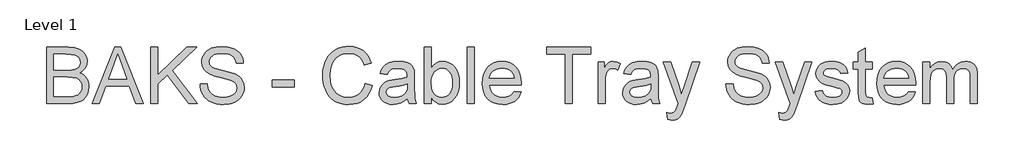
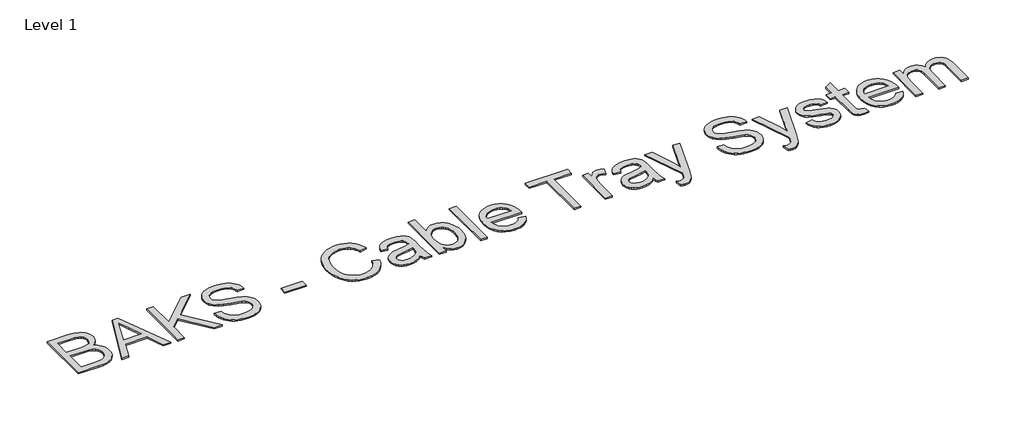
# One storey, part 106 of 106: 1 proxy.
"""IFC4 building model written with IfcOpenShell, lengths in millimetres."""

from ifc_helpers import new_model, si_unit, origin, origin_with_axes, place, context, project, spatial, polyline, outline, extrude, element, save

model = new_model("IFC4")

# Units and contexts
model_context = context("Model", 3, world=origin())
ifc_project = project(units=[si_unit("LENGTHUNIT", "METRE", prefix="MILLI")], contexts=[model_context])

# Site, building, storey
site = spatial("IfcSite", under=ifc_project)
building = spatial("IfcBuilding", under=site)
storey = spatial("IfcBuildingStorey", under=building, Name="Level 1", Elevation=0.0)

# Proxy
placement = place(None, origin())
element("IfcBuildingElementProxy", 1, Name="600mm Arial", ObjectType="600mm Arial", at=placement, inside=storey, context=model_context, shape_type="SweptSolid", body=[
    extrude(outline(polyline([(158347.8263042, 74450.7318965), (158347.8263042, 75053.4697574), (158577.8261276, 75053.4697574), (158641.0834367, 75049.0367793), (158690.4715946, 75035.7378452), (158710.5487544, 75025.6808712), (158728.3266519, 75013.2418612), (158743.8052868, 74998.4208153), (158756.9846593, 74981.2177335), (158775.0292711, 74943.5466172), (158781.0441418, 74904.1096673), (158775.9857643, 74867.8181085), (158760.810632, 74833.6970535), (158735.4083803, 74803.8434295), (158699.6686444, 74780.3541642), (158722.4083503, 74770.6604736), (158742.36135, 74758.0605152), (158759.5276436, 74742.5542891), (158773.9072311, 74724.1417953), (158785.2701862, 74703.3840537), (158793.3865827, 74680.8420845), (158798.2564206, 74656.5158875), (158799.8796999, 74630.4054629), (158795.4467219, 74588.374945), (158782.1477877, 74549.3978476), (158762.3005541, 74516.2516798), (158738.2226775, 74491.7139507), (158708.7369356, 74473.9452504), (158672.666106, 74461.1061687), (158628.8329663, 74453.3254645), (158576.0602941, 74450.7318965), (158347.8263042, 74450.7318965)]), holes=[polyline([(158423.1685369, 74808.6075014), (158560.7564031, 74808.6075014), (158608.875368, 74810.2261822), (158641.1018308, 74815.0822245), (158669.2264093, 74826.247443), (158689.441525, 74842.9676797), (158701.6368131, 74864.9854171), (158705.7019092, 74892.0431379), (158701.9127246, 74918.3099123), (158690.5451709, 74941.1921724), (158672.114283, 74959.0528433), (158647.1350955, 74970.2548501), (158608.8017916, 74976.1593561), (158550.3085544, 74978.1275248), (158423.1685369, 74978.1275248), (158423.1685369, 74808.6075014)]), polyline([(158423.1685369, 74526.0741291), (158577.6789748, 74526.0741291), (158633.5970381, 74529.017185), (158659.5511129, 74535.5470905), (158680.9066627, 74545.424722), (158698.2706928, 74559.5697847), (158712.2502087, 74578.9019836), (158721.4656526, 74602.5567959), (158724.5374673, 74629.6696989), (158720.9322238, 74661.1603977), (158710.1164931, 74688.2365126), (158691.2257526, 74709.4081214), (158663.3954797, 74723.1853021), (158623.9769239, 74730.7452771), (158570.3213349, 74733.2652688), (158423.1685369, 74733.2652688), (158423.1685369, 74526.0741291)])]), origin_with_axes(), (0.0, 0.0, 1.0), 15.0),
    extrude(outline(polyline([(158833.4305379, 74450.7318965), (159074.0253627, 75053.4697574), (159138.1839827, 75053.4697574), (159378.6316547, 74450.7318965), (159299.021991, 74450.7318965), (159230.1544815, 74639.087478), (158981.7605583, 74639.087478), (158912.8930488, 74450.7318965), (158833.4305379, 74450.7318965)]), holes=[polyline([(159009.4252844, 74714.4297106), (159202.6369082, 74714.4297106), (159148.1903729, 74862.6125783), (159105.9575199, 74978.1275248), (159068.4335564, 74875.5620245), (159009.4252844, 74714.4297106)])]), origin_with_axes(), (0.0, 0.0, 1.0), 15.0),
    extrude(outline(polyline([(159459.1242353, 74450.7318965), (159459.1242353, 75053.4697574), (159534.4664679, 75053.4697574), (159534.4664679, 74758.4283972), (159843.4873438, 75053.4697574), (159948.8487473, 75053.4697574), (159689.2712115, 74805.6644454), (159958.2665263, 74450.7318965), (159866.1488747, 74450.7318965), (159635.8547458, 74754.7495773), (159534.4664679, 74657.9230362), (159534.4664679, 74450.7318965), (159459.1242353, 74450.7318965)])), origin_with_axes(), (0.0, 0.0, 1.0), 15.0),
    extrude(outline(polyline([(159986.5198636, 74657.9230362), (160061.8620962, 74657.9230362), (160070.5073231, 74616.1132474), (160086.1423079, 74582.5072271), (160110.5328841, 74555.8357825), (160145.4448855, 74534.8297206), (160188.1191969, 74521.1996926), (160235.7967035, 74516.65635), (160277.7720391, 74520.0960467), (160314.5234505, 74530.4151366), (160344.303498, 74546.7490972), (160365.3647422, 74568.2334057), (160377.8911241, 74592.8998935), (160382.0665848, 74618.7803919), (160378.9395878, 74643.9987026), (160369.5585969, 74665.7957109), (160350.5023096, 74684.3921457), (160318.3494232, 74700.0087364), (160208.6470122, 74728.7771084), (160136.6341117, 74747.8150017), (160090.5568918, 74765.9331899), (160053.0513224, 74791.2802594), (160026.4718482, 74821.998406), (160010.6345283, 74857.4254421), (160005.3554217, 74896.8991802), (160006.9878981, 74919.3353834), (160011.8853271, 74941.0266255), (160020.0477089, 74961.9729066), (160031.4750434, 74982.1742267), (160046.0385719, 75000.8074498), (160063.6095356, 75017.0494398), (160084.1879348, 75030.900197), (160107.7737692, 75042.3597211), (160160.7855647, 75057.7555826), (160219.4627429, 75062.8875364), (160283.0327517, 75057.5164593), (160338.6565093, 75041.4032279), (160362.9919033, 75029.4010778), (160384.3474531, 75014.8789361), (160402.7231588, 74997.8368026), (160418.1190203, 74978.2746776), (160430.415476, 74956.7627779), (160439.4929642, 74933.8713207), (160445.351485, 74909.6003061), (160447.9910383, 74883.949734), (160372.6488057, 74883.949734), (160367.6088224, 74907.9908224), (160358.8164427, 74928.9049138), (160346.2716666, 74946.6920083), (160329.9744943, 74961.3521058), (160309.6214229, 74972.8116299), (160284.9089498, 74980.9970043), (160255.8370752, 74985.908229), (160222.4057989, 74987.5453038), (160187.9076648, 74985.9266231), (160158.4311199, 74981.0705807), (160133.9761643, 74972.9771768), (160114.5427979, 74961.6464114), (160099.7355476, 74948.0255805), (160089.1589402, 74933.0619803), (160082.8129758, 74916.7556109), (160080.6976543, 74899.1064722), (160082.1967735, 74883.9221428), (160086.6941308, 74870.1541592), (160094.1897265, 74857.8025212), (160104.6835604, 74846.8672289), (160121.201462, 74836.5113507), (160147.2107191, 74826.045108), (160227.7032996, 74804.7815286), (160310.7710541, 74784.5848071), (160361.0237346, 74766.9632595), (160403.9739576, 74739.6296273), (160420.5792311, 74723.5623811), (160433.9379461, 74705.8948483), (160444.2064523, 74686.7189993), (160451.5410996, 74666.1268046), (160457.4088174, 74620.6933782), (160455.7211587, 74597.1259379), (160450.6581828, 74574.2482764), (160442.2198895, 74552.0603935), (160430.4062789, 74530.5622894), (160415.4242847, 74510.5862971), (160397.4808404, 74492.9647495), (160376.575946, 74477.6976467), (160352.7096016, 74464.7849887), (160326.5761843, 74454.5164825), (160298.8700716, 74447.1818352), (160238.7397595, 74441.3141174), (160200.1995219, 74442.89601), (160164.9242371, 74447.6416877), (160132.913905, 74455.5511506), (160104.1685256, 74466.6243987), (160078.513355, 74480.879826), (160055.7736492, 74498.3358266), (160035.9494081, 74518.9924007), (160019.0406319, 74542.8495481), (160005.4198011, 74569.1347166), (159995.459396, 74597.0753542), (159989.1594169, 74626.6714607), (159986.5198636, 74657.9230362)])), origin_with_axes(), (0.0, 0.0, 1.0), 15.0),
    extrude(outline(polyline([(160758.7777478, 74629.6696989), (160758.7777478, 74705.0119315), (160994.2222247, 74705.0119315), (160994.2222247, 74629.6696989), (160758.7777478, 74629.6696989)])), origin_with_axes(), (0.0, 0.0, 1.0), 15.0),
    extrude(outline(polyline([(161747.6445509, 74664.9863705), (161822.9867835, 74645.5622011), (161808.0783656, 74598.7078305), (161788.2219349, 74557.767163), (161763.4174914, 74522.7401985), (161733.6650351, 74493.6269371), (161699.6359505, 74470.7400785), (161662.0016224, 74454.3923223), (161620.7620507, 74444.5836686), (161575.9172355, 74441.3141174), (161529.9733728, 74443.7881238), (161488.5268676, 74451.2101431), (161451.5777197, 74463.5801752), (161419.1259292, 74480.8982201), (161390.7254391, 74502.9067604), (161365.9301927, 74529.3482788), (161344.7401898, 74560.2227753), (161327.1554304, 74595.5302498), (161313.34606, 74633.743992), (161303.482224, 74673.3372918), (161297.5639224, 74714.310149), (161295.5911552, 74756.6625637), (161297.8214398, 74802.1051871), (161304.5122936, 74844.5495723), (161315.6637166, 74883.9957192), (161331.2757087, 74920.4436279), (161350.9987822, 74953.2908916), (161374.4834491, 74981.9351034), (161401.7297093, 75006.3762635), (161432.737563, 75026.6143717), (161466.4539479, 75042.4838813), (161501.8258017, 75053.8192453), (161538.8531245, 75060.6204637), (161577.5359163, 75062.8875364), (161620.6286935, 75059.9536775), (161660.1438183, 75051.1521008), (161696.0812907, 75036.4828062), (161728.4411107, 75015.9457939), (161756.6898494, 74990.0836896), (161780.2940779, 74959.4391194), (161799.2537963, 74924.0120833), (161813.5690044, 74883.8025812), (161738.2267718, 74865.8499398), (161726.3625774, 74895.478236), (161712.1071501, 74920.7931158), (161695.4604899, 74941.7945792), (161676.4225966, 74958.4826262), (161654.8831058, 74971.1975477), (161630.7316528, 74980.2796344), (161603.9682377, 74985.7288865), (161574.5928603, 74987.5453038), (161540.793702, 74985.5311499), (161509.8824174, 74979.4886881), (161481.8590064, 74969.4179185), (161456.7234691, 74955.3188411), (161434.7931036, 74937.8260522), (161416.3852083, 74917.5741484), (161401.4997831, 74894.5631296), (161390.136828, 74868.7929958), (161375.7342478, 74813.6474847), (161370.9333878, 74756.8097165), (161376.6171646, 74687.206443), (161383.7218857, 74655.9364734), (161393.6684951, 74627.0209486), (161406.6179413, 74601.0346841), (161422.7311727, 74578.5524957), (161442.0081893, 74559.5743833), (161464.448991, 74544.1003468), (161488.9637274, 74532.0935982), (161514.4625482, 74523.5173492), (161540.9454534, 74518.3715998), (161568.4124428, 74516.65635), (161601.167736, 74518.9924007), (161631.3018699, 74526.0005527), (161658.8148446, 74537.680806), (161683.7066601, 74554.0331607), (161705.3887052, 74574.9840403), (161723.2723687, 74600.4598685), (161737.3576506, 74630.4606452), (161747.6445509, 74664.9863705)])), origin_with_axes(), (0.0, 0.0, 1.0), 15.0),
    extrude(outline(polyline([(162199.6979465, 74507.2385709), (162163.7006933, 74476.3732715), (162126.6365823, 74456.17655), (162087.6594849, 74445.0297255), (162045.9232726, 74441.3141174), (162012.3770331, 74443.5490005), (161982.9602691, 74450.2536499), (161957.6729804, 74461.4280655), (161936.5151672, 74477.0722473), (161919.8087261, 74496.192914), (161907.8755539, 74517.7967842), (161900.7156505, 74541.8838578), (161898.3290161, 74568.4541349), (161901.9342596, 74599.6873163), (161912.7499903, 74628.0510181), (161929.4334388, 74652.3312298), (161950.6418358, 74671.3139408), (161975.565841, 74685.6613386), (162003.3961139, 74696.0356109), (162068.5848035, 74707.3663763), (162145.6192933, 74719.285753), (162199.2564881, 74733.2652688), (162199.6979465, 74750.0406877), (162194.5108104, 74783.6651021), (162188.0268902, 74796.1179076), (162178.949402, 74805.6644454), (162163.2592349, 74815.1925891), (162144.1477653, 74821.998406), (162095.6609183, 74827.4430595), (162050.7793149, 74823.8194219), (162019.4357689, 74812.9485089), (161998.061825, 74792.8437579), (161983.0890278, 74761.518606), (161907.7467952, 74770.9363851), (161920.8250001, 74812.1391685), (161940.3411399, 74844.5127841), (161968.1162306, 74869.2712424), (162005.9712879, 74887.6285539), (162052.269237, 74898.9961076), (162105.373003, 74902.7852921), (162156.3062652, 74899.437566), (162196.6813142, 74889.3943875), (162227.1235493, 74874.2928316), (162248.2583699, 74855.7699732), (162262.2746739, 74832.869319), (162271.3613592, 74804.6343758), (162275.0401792, 74738.7099223), (162275.0401792, 74644.9735899), (162278.8661519, 74514.081176), (162284.5315346, 74481.7259546), (162293.8757373, 74450.7318965), (162218.5335047, 74450.7318965), (162206.4669753, 74476.9250945), (162199.6979465, 74507.2385709)]), holes=[polyline([(162199.6979465, 74657.9230362), (162149.077384, 74645.3782601), (162078.1497353, 74634.8200469), (162013.3289278, 74622.6063646), (161996.4615383, 74614.2554433), (161983.9719446, 74602.7407369), (161976.2464227, 74588.9451621), (161973.6712487, 74573.7516357), (161979.2814491, 74551.3476222), (161996.1120504, 74532.9903106), (162023.7951705, 74520.7398402), (162061.9629275, 74516.65635), (162102.429947, 74521.1629044), (162138.1880769, 74534.6825678), (162167.1771782, 74554.6033778), (162187.3371115, 74578.3133724), (162196.276644, 74602.7407369), (162199.2564881, 74636.5858804), (162199.6979465, 74657.9230362)])]), origin_with_axes(), (0.0, 0.0, 1.0), 15.0),
    extrude(outline(polyline([(162453.9779816, 74450.7318965), (162378.635749, 74450.7318965), (162378.635749, 75053.4697574), (162453.9779816, 75053.4697574), (162453.9779816, 74829.9446571), (162478.754834, 74861.8124349), (162506.7322597, 74884.5751334), (162537.9102588, 74898.2327525), (162572.2888313, 74902.7852921), (162611.1003817, 74898.6834079), (162647.7782167, 74886.3777552), (162680.2254086, 74866.6408861), (162706.3450303, 74840.245353), (162726.8176633, 74807.4486731), (162742.3238894, 74768.5083639), (162752.0911564, 74725.0431062), (162755.3469121, 74678.6715807), (162751.9761933, 74625.1631445), (162741.8640369, 74578.0926432), (162725.010443, 74537.4600768), (162701.4154116, 74503.2654454), (162673.0930965, 74476.1617394), (162642.0576516, 74456.8019494), (162608.3090771, 74445.1860754), (162571.8473729, 74441.3141174), (162536.3375633, 74446.3081155), (162504.8560615, 74461.2901097), (162477.4028677, 74486.2601002), (162453.9779816, 74521.2180867), (162453.9779816, 74450.7318965)]), holes=[polyline([(162453.9779816, 74675.1399135), (162459.1283295, 74612.3056688), (162465.5662645, 74588.5037037), (162474.5793733, 74569.7785101), (162492.8355173, 74546.5375651), (162514.0531114, 74529.93689), (162538.2321556, 74519.976485), (162565.3726497, 74516.65635), (162587.905422, 74519.1027653), (162608.8563016, 74526.4420111), (162628.2252886, 74538.6740874), (162646.0123831, 74555.7989943), (162660.8840127, 74577.7707465), (162671.5066054, 74604.5433587), (162677.8801609, 74636.1168309), (162680.0046794, 74672.4911632), (162677.9675329, 74709.5552742), (162671.8560933, 74741.4322491), (162661.6703605, 74768.1220878), (162647.4103347, 74789.6247904), (162630.2624352, 74806.1702832), (162611.4130814, 74817.9884923), (162590.8622735, 74825.0794177), (162568.6100113, 74827.4430595), (162546.0772391, 74824.9966443), (162525.1263595, 74817.6573985), (162505.7573724, 74805.4253221), (162487.970278, 74788.3004152), (162473.0986483, 74766.5493923), (162462.4760557, 74740.4389677), (162456.1025001, 74709.9691414), (162453.9779816, 74675.1399135)])]), origin_with_axes(), (0.0, 0.0, 1.0), 15.0),
    extrude(outline(polyline([(162840.1069237, 74450.7318965), (162840.1069237, 75053.4697574), (162915.4491564, 75053.4697574), (162915.4491564, 74450.7318965), (162840.1069237, 74450.7318965)])), origin_with_axes(), (0.0, 0.0, 1.0), 15.0),
    extrude(outline(polyline([(163338.366298, 74582.5808035), (163412.2370026, 74573.1630245), (163400.9108357, 74543.576115), (163385.6207403, 74517.5024786), (163366.3667164, 74494.9421152), (163343.148764, 74475.8950249), (163316.2060063, 74460.7658779), (163285.7775668, 74449.9593443), (163251.8634454, 74443.4754241), (163214.463642, 74441.3141174), (163167.7150375, 74445.0435211), (163126.0615986, 74456.2317323), (163089.5033253, 74474.8787509), (163058.0402177, 74500.984577), (163032.7391335, 74533.8226436), (163014.6669305, 74572.6663838), (163003.8236086, 74617.5157975), (163000.209168, 74668.3708848), (163003.8603968, 74720.950419), (163014.8140833, 74767.2943533), (163033.0702273, 74807.4026878), (163058.6288289, 74841.2754226), (163090.0091631, 74868.1859905), (163125.7305048, 74887.4078247), (163165.7928541, 74898.9409253), (163210.1962109, 74902.7852921), (163253.1694265, 74898.9501223), (163292.0315607, 74887.4446129), (163326.7826137, 74868.2687639), (163357.4225854, 74841.4225753), (163382.4339625, 74807.623417), (163400.2992319, 74767.5886589), (163411.0183935, 74721.318301), (163414.5914474, 74668.8123432), (163414.149989, 74648.5052571), (163075.5514007, 74648.5052571), (163079.9154008, 74618.440101), (163088.5928174, 74592.1089472), (163101.5836503, 74569.5117957), (163118.8878997, 74550.6486464), (163139.5490722, 74535.7770167), (163162.6106748, 74525.1544241), (163188.0727074, 74518.7808685), (163215.93517, 74516.65635), (163256.0343075, 74520.5926874), (163289.8058746, 74532.4016994), (163317.2498715, 74552.8191501), (163338.366298, 74582.5808035)]), holes=[polyline([(163075.5514007, 74723.8474897), (163339.2492148, 74723.8474897), (163329.0588835, 74763.6523216), (163320.294095, 74779.3057005), (163309.0828912, 74792.126388), (163288.5366818, 74807.5774318), (163265.157781, 74818.6138916), (163238.9461888, 74825.2357676), (163209.9019053, 74827.4430595), (163183.4098031, 74825.6818245), (163159.1157959, 74820.3981193), (163137.0198835, 74811.5919441), (163117.1220661, 74799.2632987), (163100.4248221, 74783.9824003), (163087.9306298, 74766.319466), (163079.6394893, 74746.2744958), (163075.5514007, 74723.8474897)])]), origin_with_axes(), (0.0, 0.0, 1.0), 15.0),
    extrude(outline(polyline([(163885.4804012, 74450.7318965), (163885.4804012, 74978.1275248), (163687.7070406, 74978.1275248), (163687.7070406, 75053.4697574), (164158.5959945, 75053.4697574), (164158.5959945, 74978.1275248), (163960.8226339, 74978.1275248), (163960.8226339, 74450.7318965), (163885.4804012, 74450.7318965)])), origin_with_axes(), (0.0, 0.0, 1.0), 15.0),
    extrude(outline(polyline([(164233.9382271, 74450.7318965), (164233.9382271, 74893.3675131), (164299.8626806, 74893.3675131), (164299.8626806, 74827.8845179), (164324.2164687, 74865.8499398), (164346.6572704, 74888.2171651), (164369.1716485, 74899.1432604), (164393.7461658, 74902.7852921), (164431.2701293, 74896.9727566), (164469.382704, 74879.53515), (164444.2195755, 74811.9920157), (164417.7320719, 74823.5802986), (164391.2445682, 74827.4430595), (164368.7485842, 74823.7274514), (164348.6438332, 74812.5806269), (164332.4018431, 74794.8487148), (164321.4941419, 74771.3778435), (164312.3338802, 74729.2921432), (164309.2804597, 74683.3804702), (164309.2804597, 74450.7318965), (164233.9382271, 74450.7318965)])), origin_with_axes(), (0.0, 0.0, 1.0), 15.0),
    extrude(outline(polyline([(164799.0049717, 74507.2385709), (164763.0077184, 74476.3732715), (164725.9436074, 74456.17655), (164686.96651, 74445.0297255), (164645.2302977, 74441.3141174), (164611.6840582, 74443.5490005), (164582.2672942, 74450.2536499), (164556.9800056, 74461.4280655), (164535.8221923, 74477.0722473), (164519.1157512, 74496.192914), (164507.182579, 74517.7967842), (164500.0226757, 74541.8838578), (164497.6360412, 74568.4541349), (164501.2412848, 74599.6873163), (164512.0570154, 74628.0510181), (164528.7404639, 74652.3312298), (164549.9488609, 74671.3139408), (164574.8728661, 74685.6613386), (164602.703139, 74696.0356109), (164667.8918286, 74707.3663763), (164744.9263184, 74719.285753), (164798.5635133, 74733.2652688), (164799.0049717, 74750.0406877), (164793.8178355, 74783.6651021), (164787.3339154, 74796.1179076), (164778.2564271, 74805.6644454), (164762.56626, 74815.1925891), (164743.4547904, 74821.998406), (164694.9679434, 74827.4430595), (164650.08634, 74823.8194219), (164618.742794, 74812.9485089), (164597.3688501, 74792.8437579), (164582.3960529, 74761.518606), (164507.0538203, 74770.9363851), (164520.1320252, 74812.1391685), (164539.6481651, 74844.5127841), (164567.4232557, 74869.2712424), (164605.278313, 74887.6285539), (164651.5762621, 74898.9961076), (164704.6800281, 74902.7852921), (164755.6132903, 74899.437566), (164795.9883393, 74889.3943875), (164826.4305744, 74874.2928316), (164847.565395, 74855.7699732), (164861.581699, 74832.869319), (164870.6683843, 74804.6343758), (164874.3472043, 74738.7099223), (164874.3472043, 74644.9735899), (164878.173177, 74514.081176), (164883.8385598, 74481.7259546), (164893.1827624, 74450.7318965), (164817.8405298, 74450.7318965), (164805.7740004, 74476.9250945), (164799.0049717, 74507.2385709)]), holes=[polyline([(164799.0049717, 74657.9230362), (164748.3844091, 74645.3782601), (164677.4567605, 74634.8200469), (164612.6359529, 74622.6063646), (164595.7685634, 74614.2554433), (164583.2789697, 74602.7407369), (164575.5534478, 74588.9451621), (164572.9782738, 74573.7516357), (164578.5884743, 74551.3476222), (164595.4190755, 74532.9903106), (164623.1021957, 74520.7398402), (164661.2699527, 74516.65635), (164701.7369721, 74521.1629044), (164737.4951021, 74534.6825678), (164766.4842033, 74554.6033778), (164786.6441366, 74578.3133724), (164795.5836691, 74602.7407369), (164798.5635133, 74636.5858804), (164799.0049717, 74657.9230362)])]), origin_with_axes(), (0.0, 0.0, 1.0), 15.0),
    extrude(outline(polyline([(164977.9427741, 74281.2118731), (164968.524995, 74353.7582025), (165006.7847225, 74347.1363266), (165026.9078677, 74349.2148599), (165042.5428525, 74355.4504597), (165054.7197465, 74365.4016677), (165064.4686194, 74378.6270254), (165085.0700111, 74434.1036303), (165090.956123, 74452.3505773), (164930.8538787, 74893.3675131), (165010.1692369, 74893.3675131), (165095.2235542, 74647.4751875), (165124.8012666, 74549.1771184), (165154.378979, 74636.144422), (165241.6405883, 74893.3675131), (165320.3673352, 74893.3675131), (165166.2983556, 74440.136895), (165126.2727946, 74341.8388259), (165105.7817674, 74310.4584917), (165082.5684135, 74288.7166658), (165055.6394515, 74276.024737), (165024.0015999, 74271.794094), (165002.1126212, 74274.1485388), (164977.9427741, 74281.2118731)])), origin_with_axes(), (0.0, 0.0, 1.0), 15.0),
    extrude(outline(polyline([(165599.5161932, 74657.9230362), (165674.8584258, 74657.9230362), (165683.5036527, 74616.1132474), (165699.1386375, 74582.5072271), (165723.5292137, 74555.8357825), (165758.4412151, 74534.8297206), (165801.1155265, 74521.1996926), (165848.7930331, 74516.65635), (165890.7683687, 74520.0960467), (165927.5197801, 74530.4151366), (165957.2998276, 74546.7490972), (165978.3610718, 74568.2334057), (165990.8874537, 74592.8998935), (165995.0629144, 74618.7803919), (165991.9359174, 74643.9987026), (165982.5549265, 74665.7957109), (165963.4986392, 74684.3921457), (165931.3457528, 74700.0087364), (165821.6433419, 74728.7771084), (165749.6304413, 74747.8150017), (165703.5532214, 74765.9331899), (165666.047652, 74791.2802594), (165639.4681778, 74821.998406), (165623.630858, 74857.4254421), (165618.3517513, 74896.8991802), (165619.9842277, 74919.3353834), (165624.8816567, 74941.0266255), (165633.0440385, 74961.9729066), (165644.471373, 74982.1742267), (165659.0349015, 75000.8074498), (165676.6058653, 75017.0494398), (165697.1842644, 75030.900197), (165720.7700988, 75042.3597211), (165773.7818943, 75057.7555826), (165832.4590725, 75062.8875364), (165896.0290813, 75057.5164593), (165951.652839, 75041.4032279), (165975.9882329, 75029.4010778), (165997.3437828, 75014.8789361), (166015.7194884, 74997.8368026), (166031.1153499, 74978.2746776), (166043.4118056, 74956.7627779), (166052.4892938, 74933.8713207), (166058.3478146, 74909.6003061), (166060.9873679, 74883.949734), (165985.6451353, 74883.949734), (165980.605152, 74907.9908224), (165971.8127723, 74928.9049138), (165959.2679963, 74946.6920083), (165942.9708239, 74961.3521058), (165922.6177525, 74972.8116299), (165897.9052795, 74980.9970043), (165868.8334048, 74985.908229), (165835.4021285, 74987.5453038), (165800.9039944, 74985.9266231), (165771.4274495, 74981.0705807), (165746.9724939, 74972.9771768), (165727.5391275, 74961.6464114), (165712.7318772, 74948.0255805), (165702.1552698, 74933.0619803), (165695.8093054, 74916.7556109), (165693.6939839, 74899.1064722), (165695.1931031, 74883.9221428), (165699.6904605, 74870.1541592), (165707.1860561, 74857.8025212), (165717.67989, 74846.8672289), (165734.1977916, 74836.5113507), (165760.2070487, 74826.045108), (165840.6996292, 74804.7815286), (165923.7673837, 74784.5848071), (165974.0200643, 74766.9632595), (166016.9702872, 74739.6296273), (166033.5755608, 74723.5623811), (166046.9342757, 74705.8948483), (166057.2027819, 74686.7189993), (166064.5374292, 74666.1268046), (166070.405147, 74620.6933782), (166068.7174883, 74597.1259379), (166063.6545124, 74574.2482764), (166055.2162191, 74552.0603935), (166043.4026085, 74530.5622894), (166028.4206143, 74510.5862971), (166010.47717, 74492.9647495), (165989.5722756, 74477.6976467), (165965.7059312, 74464.7849887), (165939.5725139, 74454.5164825), (165911.8664012, 74447.1818352), (165851.7360891, 74441.3141174), (165813.1958515, 74442.89601), (165777.9205667, 74447.6416877), (165745.9102346, 74455.5511506), (165717.1648552, 74466.6243987), (165691.5096846, 74480.879826), (165668.7699788, 74498.3358266), (165648.9457377, 74518.9924007), (165632.0369615, 74542.8495481), (165618.4161307, 74569.1347166), (165608.4557257, 74597.0753542), (165602.1557465, 74626.6714607), (165599.5161932, 74657.9230362)])), origin_with_axes(), (0.0, 0.0, 1.0), 15.0),
    extrude(outline(polyline([(166174.0007168, 74281.2118731), (166164.5829378, 74353.7582025), (166202.8426653, 74347.1363266), (166222.9658104, 74349.2148599), (166238.6007952, 74355.4504597), (166250.7776892, 74365.4016677), (166260.5265621, 74378.6270254), (166281.1279538, 74434.1036303), (166287.0140658, 74452.3505773), (166126.9118215, 74893.3675131), (166206.2271796, 74893.3675131), (166291.2814969, 74647.4751875), (166320.8592093, 74549.1771184), (166350.4369217, 74636.144422), (166437.698531, 74893.3675131), (166516.4252779, 74893.3675131), (166362.3562984, 74440.136895), (166322.3307373, 74341.8388259), (166301.8397102, 74310.4584917), (166278.6263563, 74288.7166658), (166251.6973942, 74276.024737), (166220.0595426, 74271.794094), (166198.1705639, 74274.1485388), (166174.0007168, 74281.2118731)])), origin_with_axes(), (0.0, 0.0, 1.0), 15.0),
    extrude(outline(polyline([(166550.7118799, 74582.5808035), (166626.0541125, 74591.9985826), (166630.6066522, 74574.8184934), (166637.936701, 74559.7721198), (166648.0442588, 74546.8594618), (166660.9293257, 74536.0805194), (166676.6286898, 74527.5824453), (166695.1791394, 74521.5123923), (166740.833295, 74516.65635), (166785.9356276, 74521.1077221), (166803.4652047, 74526.6719373), (166817.6470556, 74534.4618386), (166836.4090374, 74553.8124315), (166841.0995328, 74564.6465563), (166842.6630313, 74576.2532332), (166841.0903357, 74586.4251704), (166836.3722492, 74595.4566734), (166817.4999028, 74610.0983768), (166789.2833538, 74619.6633087), (166739.9503782, 74631.5826853), (166671.1932333, 74651.4667071), (166626.4955709, 74668.4444612), (166597.7823812, 74686.9673197), (166576.9786544, 74711.4866547), (166564.3419078, 74740.4389677), (166560.129659, 74772.2607603), (166563.5141733, 74801.4521966), (166573.6677164, 74828.3995527), (166589.6705832, 74852.0359709), (166610.6030687, 74871.2945934), (166631.4067955, 74883.4163051), (166658.5013045, 74893.5882423), (166689.8264564, 74900.4860297), (166723.322112, 74902.7852921), (166772.360782, 74899.0880781), (166814.9983052, 74887.9964359), (166849.2849072, 74870.5956176), (166873.2708133, 74847.9708749), (166889.1633155, 74818.4483448), (166899.1697057, 74780.3541642), (166823.8274731, 74770.9363851), (166814.3177235, 74794.6463797), (166795.5005595, 74812.5070505), (166767.19204, 74823.7090573), (166729.208224, 74827.4430595), (166685.9453013, 74823.8746042), (166657.1033529, 74813.1692381), (166640.8797569, 74797.7181943), (166635.4718916, 74779.9127058), (166637.7159718, 74768.3244229), (166644.4482123, 74757.9869388), (166655.9629187, 74748.7531008), (166672.5543967, 74741.3586727), (166737.4487806, 74725.3190177), (166848.0341084, 74689.8551933), (166877.2439388, 74672.8958334), (166899.3904349, 74649.6824795), (166913.3515566, 74620.1415553), (166918.0052639, 74584.1994843), (166912.5422163, 74547.0434028), (166896.1530734, 74512.0946133), (166869.4632346, 74482.0938366), (166833.0980994, 74459.7817936), (166789.1729892, 74445.9310364), (166739.8032254, 74441.3141174), (166699.2534325, 74443.5398035), (166663.8355934, 74450.2168617), (166633.5497082, 74461.345292), (166608.3957767, 74476.9250945), (166587.8495673, 74496.8826928), (166571.386848, 74521.1445103), (166559.0076189, 74549.7105473), (166550.7118799, 74582.5808035)])), origin_with_axes(), (0.0, 0.0, 1.0), 15.0),
    extrude(outline(polyline([(167162.8675199, 74513.5661412), (167172.2852989, 74448.5246045), (167115.9257773, 74441.3141174), (167079.7629772, 74444.4411144), (167052.7972269, 74453.8221052), (167033.7409396, 74468.2798676), (167021.3065281, 74486.6371792), (167014.463923, 74518.1646662), (167012.1830546, 74572.1329549), (167012.1830546, 74818.0252805), (166955.6763802, 74818.0252805), (166955.6763802, 74893.3675131), (167012.1830546, 74893.3675131), (167012.1830546, 75000.9362085), (167087.5252873, 75045.2292007), (167087.5252873, 74893.3675131), (167162.8675199, 74893.3675131), (167162.8675199, 74818.0252805), (167087.5252873, 74818.0252805), (167087.5252873, 74574.3402469), (167091.4984128, 74535.4919082), (167104.3742826, 74521.7331215), (167115.2451956, 74517.9255429), (167130.0524459, 74516.65635), (167162.8675199, 74513.5661412)])), origin_with_axes(), (0.0, 0.0, 1.0), 15.0),
    extrude(outline(polyline([(167548.1135452, 74582.5808035), (167621.9842499, 74573.1630245), (167610.6580829, 74543.576115), (167595.3679875, 74517.5024786), (167576.1139636, 74494.9421152), (167552.8960112, 74475.8950249), (167525.9532535, 74460.7658779), (167495.524814, 74449.9593443), (167461.6106926, 74443.4754241), (167424.2108892, 74441.3141174), (167377.4622847, 74445.0435211), (167335.8088458, 74456.2317323), (167299.2505725, 74474.8787509), (167267.7874649, 74500.984577), (167242.4863807, 74533.8226436), (167224.4141777, 74572.6663838), (167213.5708559, 74617.5157975), (167209.9564153, 74668.3708848), (167213.6076441, 74720.950419), (167224.5613305, 74767.2943533), (167242.8174745, 74807.4026878), (167268.3760761, 74841.2754226), (167299.7564103, 74868.1859905), (167335.477752, 74887.4078247), (167375.5401013, 74898.9409253), (167419.9434581, 74902.7852921), (167462.9166737, 74898.9501223), (167501.7788079, 74887.4446129), (167536.5298609, 74868.2687639), (167567.1698326, 74841.4225753), (167592.1812097, 74807.623417), (167610.0464791, 74767.5886589), (167620.7656407, 74721.318301), (167624.3386946, 74668.8123432), (167623.8972362, 74648.5052571), (167285.2986479, 74648.5052571), (167289.662648, 74618.440101), (167298.3400646, 74592.1089472), (167311.3308975, 74569.5117957), (167328.6351469, 74550.6486464), (167349.2963195, 74535.7770167), (167372.357922, 74525.1544241), (167397.8199546, 74518.7808685), (167425.6824172, 74516.65635), (167465.7815547, 74520.5926874), (167499.5531219, 74532.4016994), (167526.9971187, 74552.8191501), (167548.1135452, 74582.5808035)]), holes=[polyline([(167285.2986479, 74723.8474897), (167548.996462, 74723.8474897), (167538.8061307, 74763.6523216), (167530.0413422, 74779.3057005), (167518.8301384, 74792.126388), (167498.283929, 74807.5774318), (167474.9050282, 74818.6138916), (167448.693436, 74825.2357676), (167419.6491525, 74827.4430595), (167393.1570503, 74825.6818245), (167368.8630431, 74820.3981193), (167346.7671307, 74811.5919441), (167326.8693133, 74799.2632987), (167310.1720693, 74783.9824003), (167297.677877, 74766.319466), (167289.3867365, 74746.2744958), (167285.2986479, 74723.8474897)])]), origin_with_axes(), (0.0, 0.0, 1.0), 15.0),
    extrude(outline(polyline([(167699.6809272, 74450.7318965), (167699.6809272, 74893.3675131), (167775.0231598, 74893.3675131), (167775.0231598, 74820.526878), (167797.6846907, 74853.9857455), (167826.8209448, 74880.1973376), (167861.4386405, 74897.1383035), (167900.5444966, 74902.7852921), (167942.4462559, 74897.0279389), (167960.2793356, 74889.8312474), (167976.033882, 74879.7558792), (168001.1234341, 74852.1095473), (168017.5309711, 74815.2293773), (168044.993362, 74853.53509), (168076.3185139, 74880.8963134), (168111.5064267, 74897.3130475), (168150.5571005, 74902.7852921), (168180.7188256, 74900.5090223), (168207.1925337, 74893.6802128), (168229.9782248, 74882.2988635), (168249.0758988, 74866.3649746), (168264.1728562, 74845.694605), (168274.9563972, 74820.1038137), (168281.4265218, 74789.5926008), (168283.58323, 74754.1609661), (168283.58323, 74450.7318965), (168208.2409974, 74450.7318965), (168208.2409974, 74721.7873505), (168206.4935579, 74759.3664963), (168201.2512395, 74784.6951717), (168191.4287902, 74802.0408078), (168175.9409582, 74815.6708357), (168156.0201482, 74824.5000036), (168132.8987648, 74827.4430595), (168111.5478135, 74825.5576643), (168092.0822574, 74819.9014786), (168074.5020965, 74810.4745025), (168058.8073309, 74797.2767359), (168045.8992714, 74779.9219028), (168036.6792289, 74758.023727), (168031.1472034, 74731.5822086), (168029.3031949, 74700.5973476), (168029.3031949, 74450.7318965), (167953.9609623, 74450.7318965), (167953.9609623, 74730.17506), (167949.6015607, 74772.775795), (167944.1523086, 74789.4960317), (167936.5233557, 74803.1628479), (167926.4111994, 74813.7854405), (167913.5123369, 74821.3730066), (167897.8267684, 74825.9255463), (167879.3544937, 74827.4430595), (167850.3286043, 74823.3963576), (167823.5835832, 74811.2562517), (167801.5106635, 74791.3170476), (167786.5010781, 74763.8730508), (167777.8926394, 74725.7972643), (167775.0231598, 74673.9626911), (167775.0231598, 74450.7318965), (167699.6809272, 74450.7318965)])), origin_with_axes(), (0.0, 0.0, 1.0), 15.0),
])

save(model, "model.ifc")
